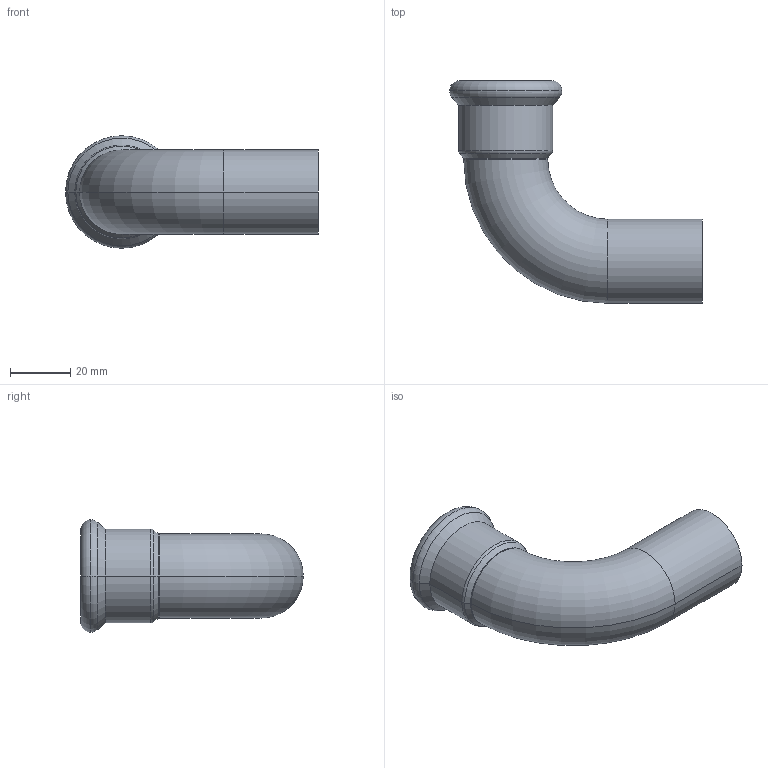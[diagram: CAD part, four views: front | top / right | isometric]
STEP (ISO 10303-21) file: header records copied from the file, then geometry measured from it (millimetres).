
FILE_DESCRIPTION(('OneSpaceDesigner STEP Export'),'2;1');
FILE_NAME('R2711 28x28.stp','2010-06-09T15:05:22',(''),(''),'OneSpace Designer STEP processor for AP214 (Solid Model)','OneSpace Modeling 15.00A 14-Mar-2007 (C) CoCreate Software GmbH','');
FILE_SCHEMA(('AUTOMOTIVE_DESIGN { 1 0 10303 214 1 1 1 1 }'));
Length unit declared in the file: millimetre
Products named in the file (2): R2711_28x28
Assembly tree (1 placements, depth 2):
  R2711_28x28
    R2711_28x28
Bounding box: 84.22 x 74.1 x 37.45 mm (x, y, z)
Volume: 14513.6 mm3; surface area: 20742.7 mm2
Topology: 1 solids, 1 shells, 68 faces, 166 edges, 105 vertices
Faces by surface type: plane 31, cylinder 23, torus 10, cone 4
Entity records: 1818 total; most frequent: ORIENTED_EDGE 332, CARTESIAN_POINT 291, DIRECTION 279, EDGE_CURVE 166, VERTEX_POINT 105, AXIS2_PLACEMENT_3D 93, VECTOR 93, LINE 93
